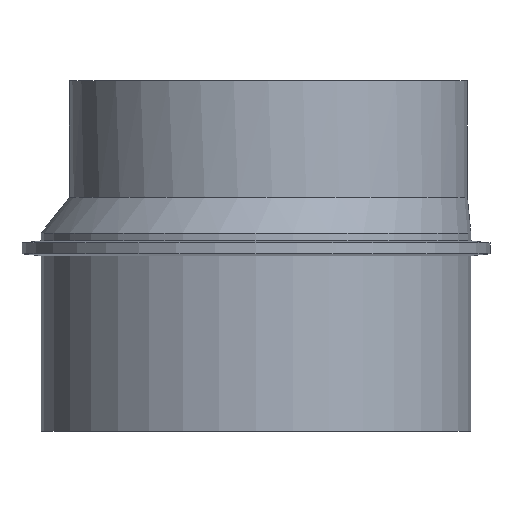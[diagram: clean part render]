
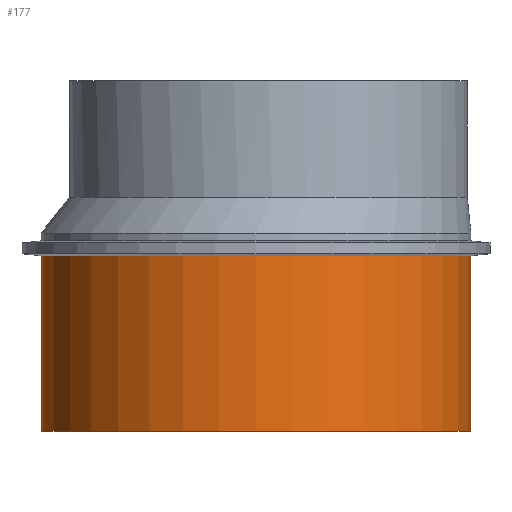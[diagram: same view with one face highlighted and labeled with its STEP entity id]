
A CAD part, front view. The second image highlights one B-rep face of the part: STEP entity #177.
In plain terms, the highlighted cylindrical face has radius 67.5 mm (diameter 135 mm), a full revolution.
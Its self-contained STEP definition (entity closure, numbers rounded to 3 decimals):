
#26=FACE_BOUND($,#57,.T.);
#40=FACE_OUTER_BOUND($,#56,.T.);
#56=EDGE_LOOP($,(#141));
#57=EDGE_LOOP($,(#142));
#66=CIRCLE($,#188,67.5);
#78=CIRCLE($,#205,67.5);
#82=VERTEX_POINT($,#271);
#94=VERTEX_POINT($,#340);
#98=EDGE_CURVE($,#82,#82,#66,.T.);
#112=EDGE_CURVE($,#94,#94,#78,.T.);
#141=ORIENTED_EDGE($,*,*,#98,.T.);
#142=ORIENTED_EDGE($,*,*,#112,.F.);
#154=CYLINDRICAL_SURFACE($,#204,67.5);
#177=ADVANCED_FACE($,(#40,#26),#154,.T.);
#188=AXIS2_PLACEMENT_3D($,#272,#220,#221);
#204=AXIS2_PLACEMENT_3D($,#339,#252,#253);
#205=AXIS2_PLACEMENT_3D($,#341,#254,#255);
#220=DIRECTION('center_axis',(0.,0.,-1.));
#221=DIRECTION('ref_axis',(-1.,0.,0.));
#252=DIRECTION('center_axis',(0.,0.,1.));
#253=DIRECTION('ref_axis',(-1.,0.,0.));
#254=DIRECTION('center_axis',(0.,0.,-1.));
#255=DIRECTION('ref_axis',(-1.,0.,0.));
#271=CARTESIAN_POINT('',(-67.5,0.,55.054));
#272=CARTESIAN_POINT('Origin',(0.,0.,55.054));
#339=CARTESIAN_POINT('Origin',(0.,0.,0.));
#340=CARTESIAN_POINT('',(67.5,0.,0.));
#341=CARTESIAN_POINT('Origin',(0.,0.,0.));
